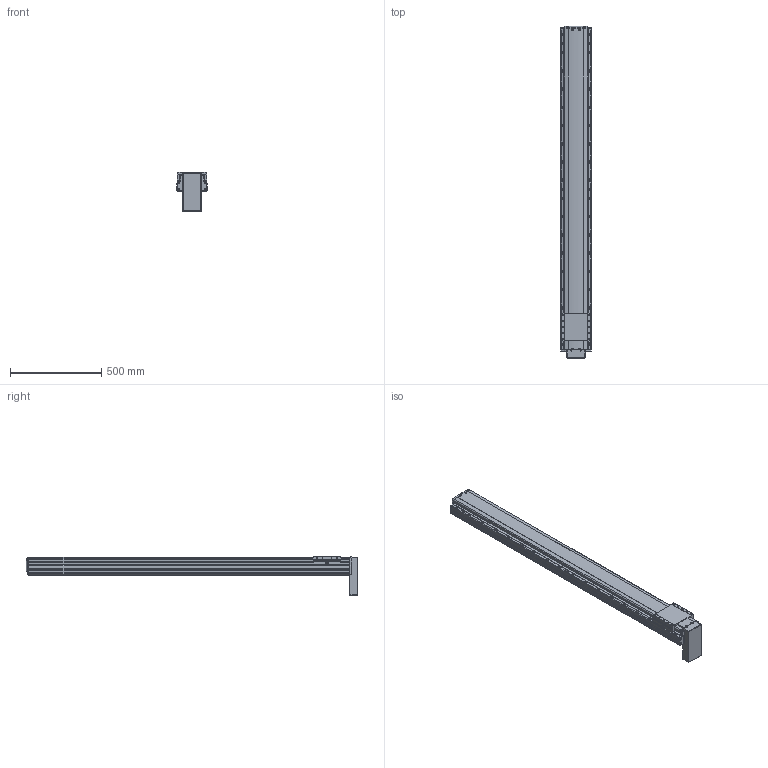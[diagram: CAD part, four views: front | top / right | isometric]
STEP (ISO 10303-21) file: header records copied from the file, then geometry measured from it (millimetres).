
FILE_DESCRIPTION(('STEP AP214'),'1');
FILE_NAME('Z:/Web/3D/PSA165/STP/PSA165-1500 (3D)/PSA165ㅁㅁ-1500PB.stp','2014-06-24T10:56:50',(' '),(' '),'Spatial InterOp 3D',' ',' ');
FILE_SCHEMA(('automotive_design'));
Length unit declared in the file: millimetre
Products named in the file (29): 스크루 : Round - M4.0 x 12.0; RRCV-PA160; BASE; 스크루 : Round - M4.0 x 10.0; RN15; Screw 20; SLIDE; FRCV; MTPL CV- PB; 스크루 : Round - M3.0 x 6.0; 1; 2
Bounding box: 165 x 1820.8 x 215.96 mm (x, y, z)
Volume: 25224611.3 mm3; surface area: 1493789.4 mm2
Topology: 29 solids, 29 shells, 2355 faces, 6332 edges, 4020 vertices
Faces by surface type: plane 1206, cylinder 810, cone 246, sphere 52, bspline 25, torus 16
Entity records: 96005 total; most frequent: CARTESIAN_POINT 17290, DIRECTION 12583, ORIENTED_EDGE 12308, EDGE_CURVE 6154, AXIS2_PLACEMENT_3D 4333, VERTEX_POINT 4020, LINE 3917, VECTOR 3917
